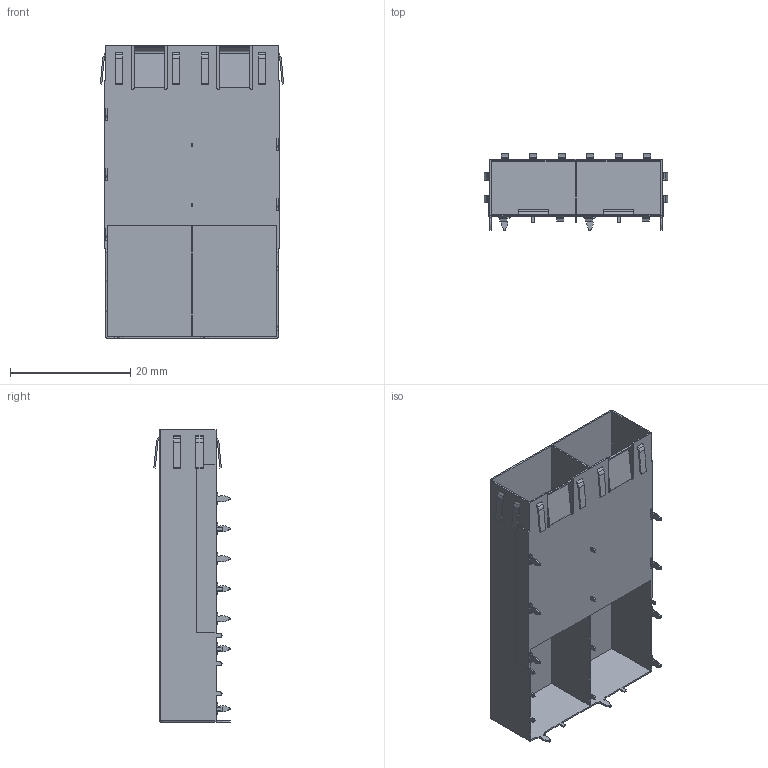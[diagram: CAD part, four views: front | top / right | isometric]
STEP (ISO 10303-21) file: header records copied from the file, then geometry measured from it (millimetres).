
FILE_DESCRIPTION (( 'STEP AP214' ), '1' );
FILE_NAME ('SFP 1X2 压接脚 短款 无月牙 顶部无孔.STEP', '2025-06-27T06:10:57', ( '桑三博客' ), ( 'Www.SangSan.Cn' ), 'SwSTEP 2.0', 'SolidWorks 2018', '' );
FILE_SCHEMA (( 'AUTOMOTIVE_DESIGN' ));
Length unit declared in the file: millimetre
Products named in the file (1): SFP 1X2 压接脚 短款 无月牙 顶部无孔
Bounding box: 30.55 x 12.7 x 48.75 mm (x, y, z)
Volume: 1026.9 mm3; surface area: 7979.9 mm2
Topology: 2 solids, 2 shells, 462 faces, 1318 edges, 874 vertices
Faces by surface type: plane 282, cylinder 178, sphere 2
Entity records: 15168 total; most frequent: CARTESIAN_POINT 2653, ORIENTED_EDGE 2632, DIRECTION 2604, EDGE_CURVE 1316, LINE 954, VECTOR 954, VERTEX_POINT 874, AXIS2_PLACEMENT_3D 825
